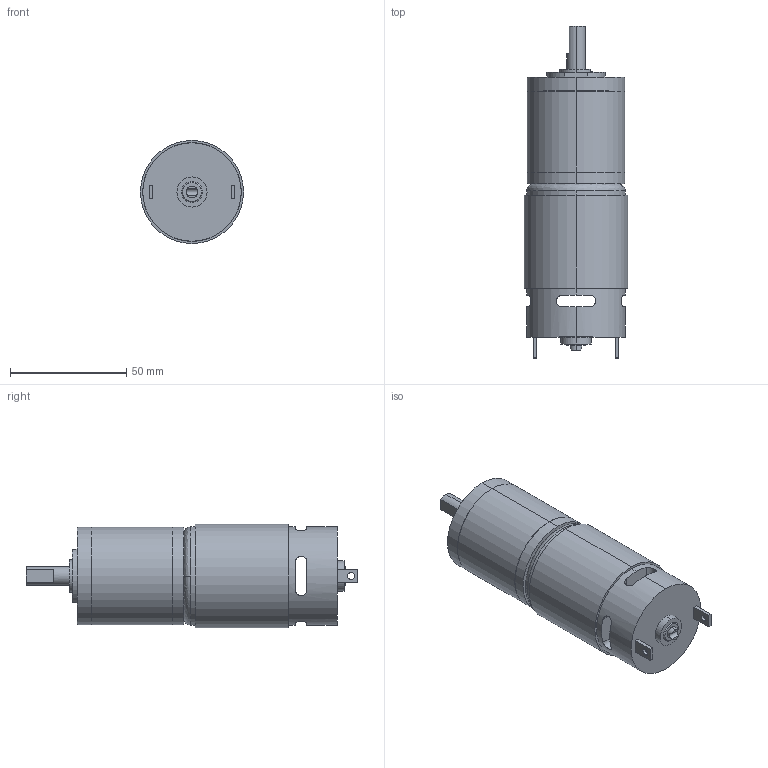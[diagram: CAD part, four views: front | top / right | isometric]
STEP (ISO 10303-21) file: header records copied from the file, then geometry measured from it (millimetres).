
FILE_DESCRIPTION (( 'STEP AP203' ), '1' );
FILE_NAME ('PL420144-01&02.STEP', '2014-01-07T07:18:09', ( 'user' ), ( '' ), 'SwSTEP 2.0', 'SolidWorks 2010', '' );
FILE_SCHEMA (( 'CONFIG_CONTROL_DESIGN' ));
Length unit declared in the file: millimetre
Products named in the file (1): PL420144-01&02
Bounding box: 44.4 x 142.9 x 44.4 mm (x, y, z)
Surface area: 23033.2 mm2 (no closed solid volume)
Topology: 0 solids, 2 shells, 95 faces, 265 edges, 180 vertices
Faces by surface type: cylinder 48, plane 39, cone 6, bspline 2
Entity records: 3528 total; most frequent: CARTESIAN_POINT 915, DIRECTION 553, ORIENTED_EDGE 504, EDGE_CURVE 265, AXIS2_PLACEMENT_3D 216, VERTEX_POINT 180, EDGE_LOOP 124, CIRCLE 122
